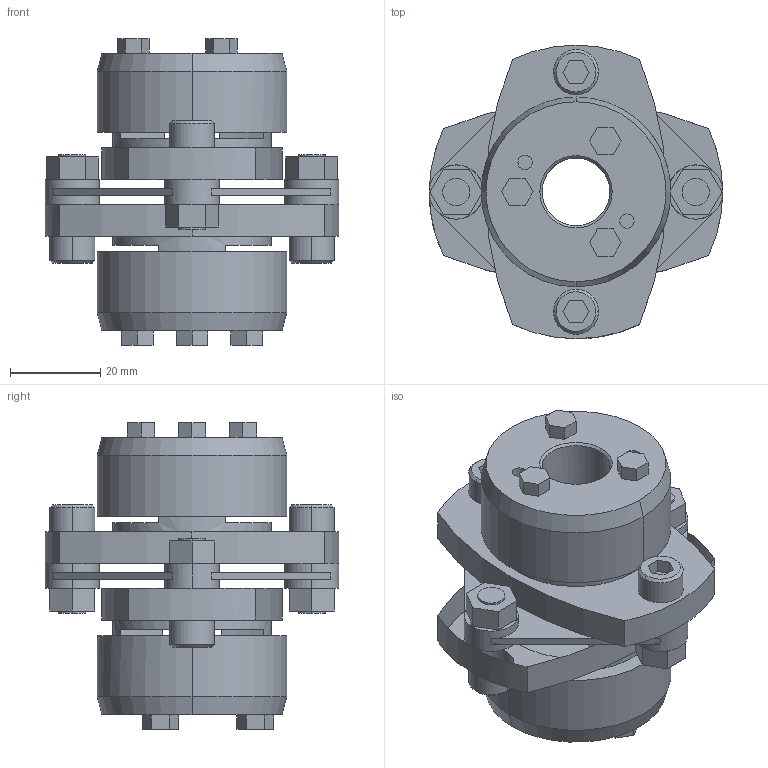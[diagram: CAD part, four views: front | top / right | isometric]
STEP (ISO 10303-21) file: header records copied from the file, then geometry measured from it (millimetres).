
FILE_DESCRIPTION((''),'2;1');
FILE_NAME('LCS-65T7-14×16.stp','2015-10-28T08:45:11',(''),(''),'AutoCAD STEP 2000i','AutoCAD 2000i',', , ');
FILE_SCHEMA(('CONFIG_CONTROL_DESIGN'));
Length unit declared in the file: millimetre
Products named in the file (7): LCS-65T7-14×15; 忣兜1; LC65T7-T015; LC65T7-T014-1; LC65T7-T014; LC65T7-T015-1; LCS65-ITA
Assembly tree (7 placements, depth 2):
  LCS-65T7-14×15
    忣兜1
    LC65T7-T015  x2
    LC65T7-T014-1
    LC65T7-T014
    LC65T7-T015-1
    LCS65-ITA
Bounding box: 65 x 65 x 67.9 mm (x, y, z)
Volume: 82375.1 mm3; surface area: 28236.8 mm2
Topology: 1 solids, 1 shells, 220 faces, 578 edges, 394 vertices
Faces by surface type: plane 132, cylinder 68, cone 20
Entity records: 7003 total; most frequent: DIRECTION 1232, CARTESIAN_POINT 1186, ORIENTED_EDGE 1128, EDGE_CURVE 564, AXIS2_PLACEMENT_3D 426, VECTOR 380, LINE 380, VERTEX_POINT 368
